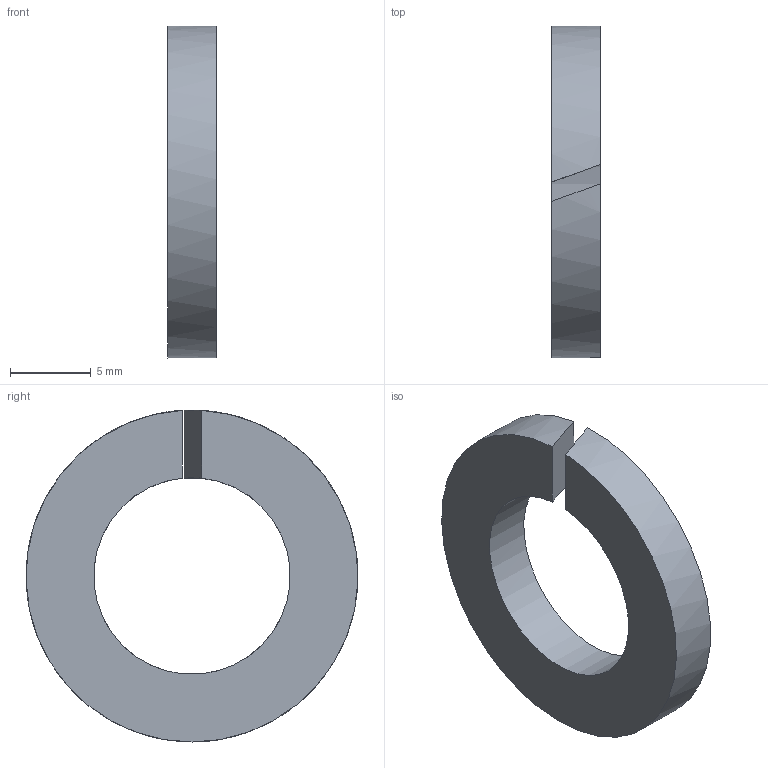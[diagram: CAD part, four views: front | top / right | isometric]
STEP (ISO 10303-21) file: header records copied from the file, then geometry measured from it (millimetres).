
FILE_DESCRIPTION(/* description */ ('스프링 잠금 와셔'),/* implementation_level */ '2;1');
FILE_NAME(/* name */ '',/* time_stamp */ '2024-08-29T13:12:31+09:00',/* author */ ('jhkim'),/* organization */ (''),/* preprocessor_version */ 'ST-DEVELOPER v20',/* originating_system */ 'Autodesk Inventor 2025',/* authorisation */ '');
FILE_SCHEMA (('AUTOMOTIVE_DESIGN { 1 0 10303 214 3 1 1 }'));
Length unit declared in the file: millimetre
Products named in the file (1): 스프링 와셔 M12
Bounding box: 3 x 20.59 x 20.6 mm (x, y, z)
Volume: 634 mm3; surface area: 751.5 mm2
Topology: 1 solids, 1 shells, 6 faces, 12 edges, 8 vertices
Faces by surface type: plane 4, cylinder 2
Entity records: 207 total; most frequent: DIRECTION 34, CARTESIAN_POINT 27, ORIENTED_EDGE 24, AXIS2_PLACEMENT_3D 15, EDGE_CURVE 12, VERTEX_POINT 8, FACE_OUTER_BOUND 6, EDGE_LOOP 6
